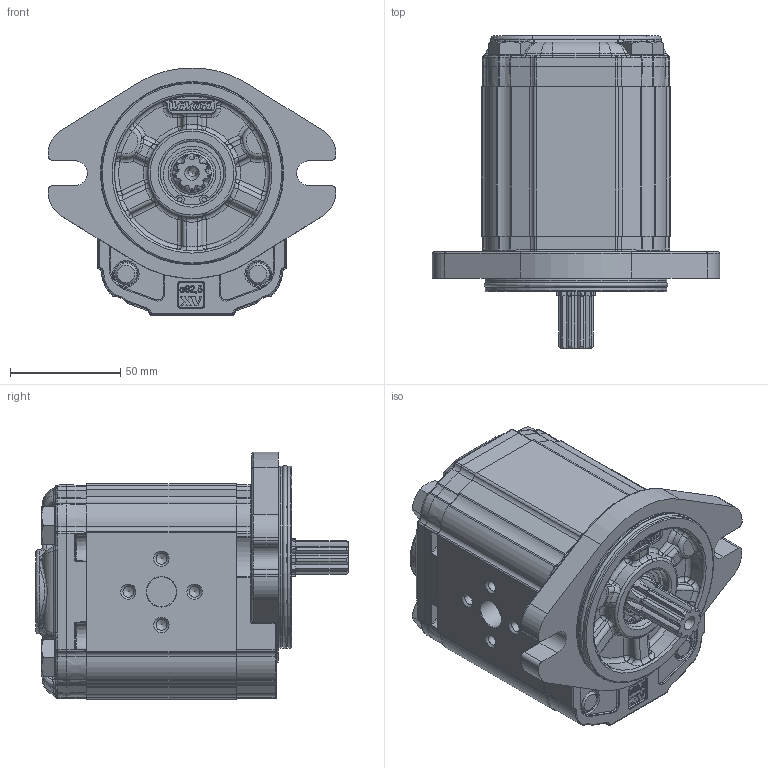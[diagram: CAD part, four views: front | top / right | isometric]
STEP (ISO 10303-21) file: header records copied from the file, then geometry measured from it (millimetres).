
FILE_DESCRIPTION(/* description */ ('Unknown'),/* implementation_level */ '2;1');
FILE_NAME(/* name */ 'X2P5151IPOA',/* time_stamp */ '2020-09-21T10:36:34+02:00',/* author */ ('Unknown'),/* organization */ ('Unknown'),/* preprocessor_version */ 'ST-DEVELOPER v16.7',/* originating_system */ 'DEX',/* authorisation */ $);
FILE_SCHEMA (('CONFIG_CONTROL_DESIGN','AUTOMOTIVE_DESIGN {1 0 10303 214 3 1 1}'));
Products named in the file (5): X2P5151IPOA; X2P51; 2I; X2POH68; XP219-A
Assembly tree (4 placements, depth 2):
  X2P5151IPOA
    X2P51
    2I
    X2POH68
    XP219-A
Bounding box: 130.38 x 141.7 x 112.3 mm (x, y, z)
Volume: 808955.6 mm3; surface area: 120448.9 mm2
Topology: 4 solids, 5 shells, 2223 faces, 5483 edges, 3330 vertices
Faces by surface type: cylinder 661, plane 591, bspline 570, torus 247, cone 116, sphere 38
Full cylindrical faces by diameter (mm): 2 x2, 4.917 x4, 6.647 x4, 10 x4, 10.5 x4, 11 x2, 11.5 x4, 13.5 x1, 16 x4, 17.42 x1, 17.48 x2, 18.724 x1, 20 x1, 20.595 x1, 21.741 x1, 25.834 x1, 28.56 x1, 28.57 x1, 28.8 x1, 30.4 x1, 79.6 x2, 82.5 x2
Entity records: 101724 total; most frequent: CARTESIAN_POINT 39174, ORIENTED_EDGE 10532, DIRECTION 8859, EDGE_CURVE 5266, AXIS2_PLACEMENT_3D 3383, VERTEX_POINT 3266, FACE_BOUND 2446, EDGE_LOOP 2436
